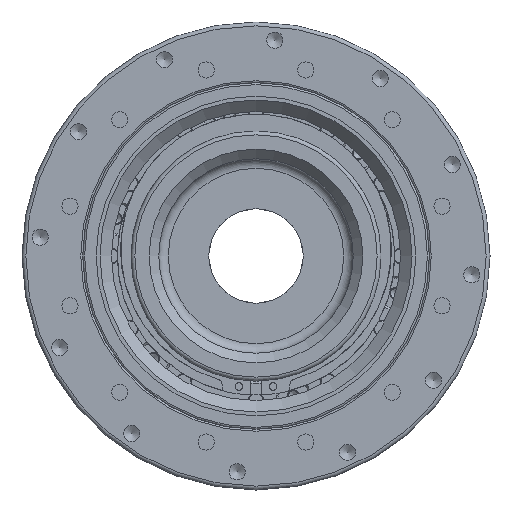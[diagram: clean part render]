
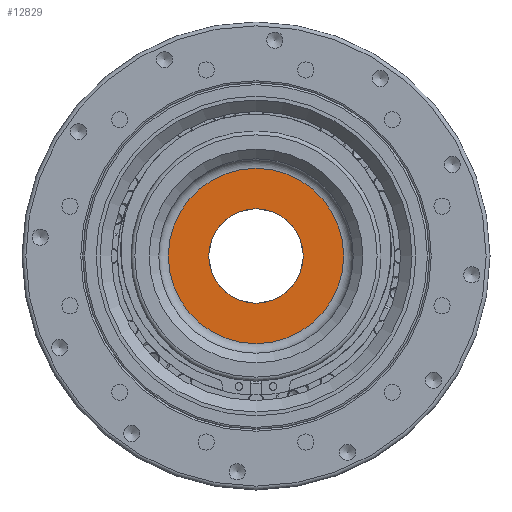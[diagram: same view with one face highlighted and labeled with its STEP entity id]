
A CAD part, left-side view. The second image highlights one B-rep face of the part: STEP entity #12829.
In plain terms, the highlighted planar face has unit normal (-1, 0, 0).
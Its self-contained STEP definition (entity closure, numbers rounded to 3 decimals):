
#1723=PLANE('',#13861);
#2344=ORIENTED_EDGE('',*,*,#5829,.F.);
#2345=ORIENTED_EDGE('',*,*,#5828,.T.);
#5828=EDGE_CURVE('',#7581,#7581,#8894,.T.);
#5829=EDGE_CURVE('',#7582,#7582,#8895,.T.);
#7581=VERTEX_POINT('',#19965);
#7582=VERTEX_POINT('',#19968);
#8894=CIRCLE('',#13860,45.5);
#8895=CIRCLE('',#13862,24.5);
#9819=EDGE_LOOP('',(#2344));
#9820=EDGE_LOOP('',(#2345));
#11283=FACE_BOUND('',#9819,.T.);
#11284=FACE_BOUND('',#9820,.T.);
#12829=ADVANCED_FACE('',(#11283,#11284),#1723,.T.);
#13860=AXIS2_PLACEMENT_3D('',#19964,#15792,#15793);
#13861=AXIS2_PLACEMENT_3D('',#19966,#15794,#15795);
#13862=AXIS2_PLACEMENT_3D('',#19967,#15796,#15797);
#15792=DIRECTION('',(-1.,0.,0.));
#15793=DIRECTION('',(0.,0.,1.));
#15794=DIRECTION('',(-1.,0.,0.));
#15795=DIRECTION('',(0.,0.,1.));
#15796=DIRECTION('',(-1.,0.,0.));
#15797=DIRECTION('',(0.,0.,1.));
#19964=CARTESIAN_POINT('',(70.65,0.,0.));
#19965=CARTESIAN_POINT('',(70.65,0.,45.5));
#19966=CARTESIAN_POINT('',(70.65,0.,50.5));
#19967=CARTESIAN_POINT('',(70.65,0.,0.));
#19968=CARTESIAN_POINT('',(70.65,0.,24.5));
